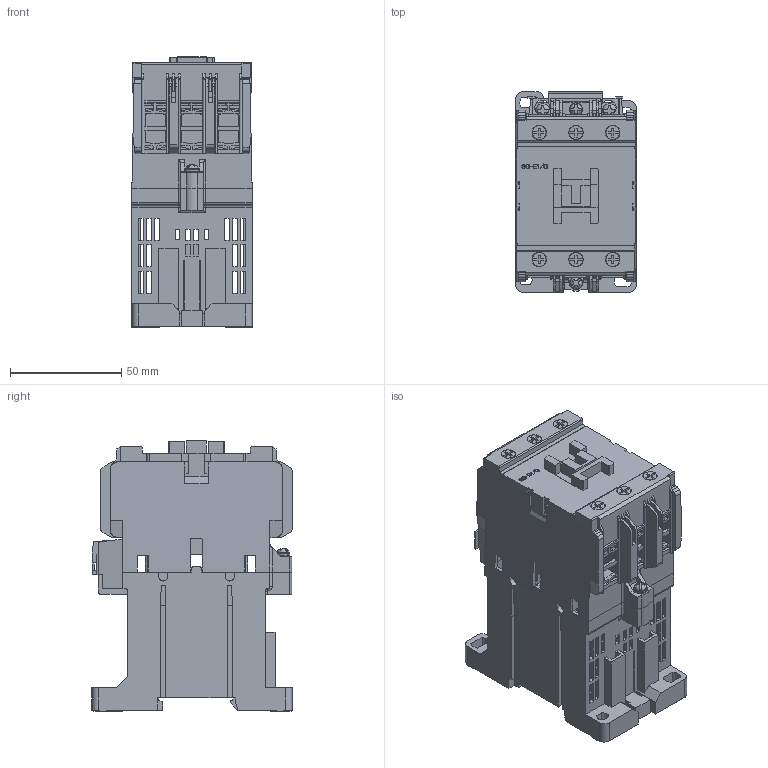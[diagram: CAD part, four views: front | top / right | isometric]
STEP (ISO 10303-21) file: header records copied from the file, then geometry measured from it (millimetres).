
FILE_DESCRIPTION (( 'STEP AP214' ), '1' );
FILE_NAME ('SC-E1G.STEP', '2016-01-19T08:40:12', ( '川崎工場' ), ( '富士電機株式会社' ), 'SwSTEP 2.0', 'SolidWorks 2015', '' );
FILE_SCHEMA (( 'AUTOMOTIVE_DESIGN' ));
Length unit declared in the file: millimetre
Products named in the file (12): Screw_M3_L17^SC-E1G; Washer_M3; Springwasher_M3; Screw_M3_L17; SC-E1G_Upper Case; SC-E1G_Coil_Terminal_Cover; SC-E1G_Terminal_Plate; Screw_M3.5_L7_端子板付_a; SC-E1G_Terminal_Cover; SC-E1G_Case_cover; SC-E1G_Lower Case; SC-E1G
Assembly tree (19 placements, depth 3):
  SC-E1G
    SC-E1G_Lower Case
    SC-E1G_Case_cover
    SC-E1G_Terminal_Cover  x2
    Screw_M3.5_L7_端子板付_a  x2
    SC-E1G_Terminal_Plate  x6
    SC-E1G_Coil_Terminal_Cover
    SC-E1G_Upper Case
    Screw_M3_L17^SC-E1G  x2
      Screw_M3_L17
      Springwasher_M3
      Washer_M3
Bounding box: 54 x 90 x 121.5 mm (x, y, z)
Volume: 200026.5 mm3; surface area: 117660 mm2
Topology: 32 solids, 32 shells, 1830 faces, 5281 edges, 3494 vertices
Faces by surface type: plane 1462, cylinder 296, bspline 60, torus 6, cone 4, sphere 2
Full cylindrical faces by diameter (mm): 3 x6, 3.2 x2, 3.3 x6, 3.303 x1, 3.421 x1, 3.5 x14, 4 x6, 6 x2, 6.3 x6, 6.5 x6, 6.8 x2
Entity records: 49751 total; most frequent: CARTESIAN_POINT 11232, ORIENTED_EDGE 8314, DIRECTION 7118, EDGE_CURVE 4157, LINE 3554, VECTOR 3554, VERTEX_POINT 2768, AXIS2_PLACEMENT_3D 1782
